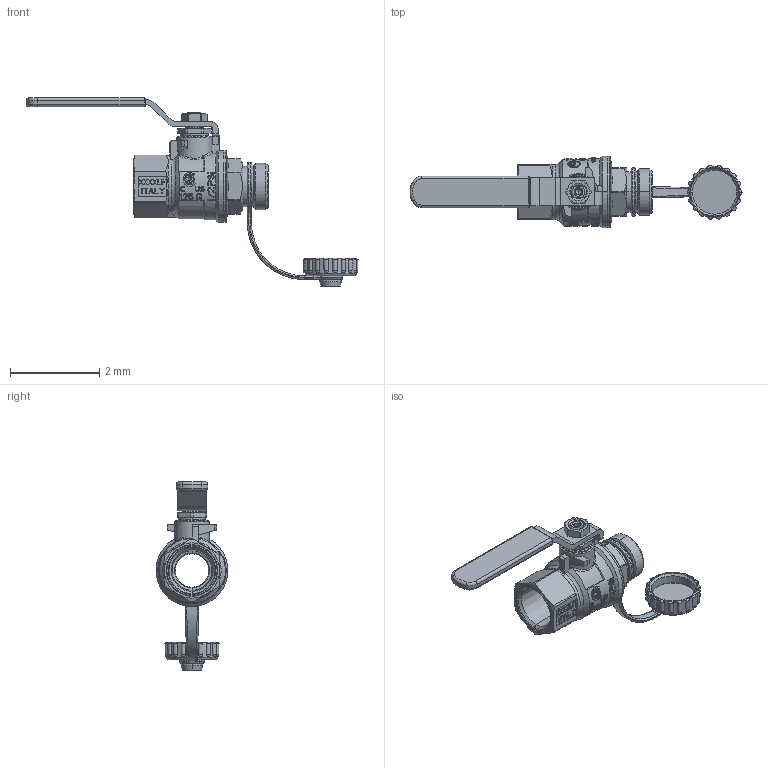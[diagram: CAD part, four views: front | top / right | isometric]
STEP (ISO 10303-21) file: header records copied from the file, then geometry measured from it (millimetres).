
FILE_DESCRIPTION(('Open CASCADE Model'),'2;1');
FILE_NAME('Open CASCADE Shape Model','2022-05-26T11:48:48',('Author'),( 'Open CASCADE'),'Open CASCADE STEP processor 7.3','Open CASCADE 7.3' ,'Unknown');
FILE_SCHEMA(('AUTOMOTIVE_DESIGN { 1 0 10303 214 1 1 1 1 }'));
Length unit declared in the file: millimetre
Products named in the file (24): Open CASCADE STEP translator 7.3 1; Open CASCADE STEP translator 7.3 1.1; Open CASCADE STEP translator 7.3 1.2; Open CASCADE STEP translator 7.3 1.3; Open CASCADE STEP translator 7.3 1.4; Open CASCADE STEP translator 7.3 1.5; Open CASCADE STEP translator 7.3 1.6; Open CASCADE STEP translator 7.3 1.7; Open CASCADE STEP translator 7.3 1.8; Open CASCADE STEP translator 7.3 1.9; Open CASCADE STEP translator 7.3 1.10; Open CASCADE STEP translator 7.3 1.11; Open CASCADE STEP translator 7.3 1.12; Open CASCADE STEP translator 7.3 1.13; Open CASCADE STEP translator 7.3 1.14; Open CASCADE STEP translator 7.3 1.15; Open CASCADE STEP translator 7.3 1.16; Open CASCADE STEP translator 7.3 1.17; Open CASCADE STEP translator 7.3 1.18; Open CASCADE STEP translator 7.3 1.19; Open CASCADE STEP translator 7.3 1.20; Open CASCADE STEP translator 7.3 1.21; Open CASCADE STEP translator 7.3 1.22; Open CASCADE STEP translator 7.3 1.23
Assembly tree (23 placements, depth 2):
  Open CASCADE STEP translator 7.3 1
    Open CASCADE STEP translator 7.3 1.1
    Open CASCADE STEP translator 7.3 1.2
    Open CASCADE STEP translator 7.3 1.3
    Open CASCADE STEP translator 7.3 1.4
    Open CASCADE STEP translator 7.3 1.5
    Open CASCADE STEP translator 7.3 1.6
    Open CASCADE STEP translator 7.3 1.7
    Open CASCADE STEP translator 7.3 1.8
    Open CASCADE STEP translator 7.3 1.9
    Open CASCADE STEP translator 7.3 1.10
    Open CASCADE STEP translator 7.3 1.11
    Open CASCADE STEP translator 7.3 1.12
    Open CASCADE STEP translator 7.3 1.13
    Open CASCADE STEP translator 7.3 1.14
    Open CASCADE STEP translator 7.3 1.15
    Open CASCADE STEP translator 7.3 1.16
    Open CASCADE STEP translator 7.3 1.17
    Open CASCADE STEP translator 7.3 1.18
    Open CASCADE STEP translator 7.3 1.19
    Open CASCADE STEP translator 7.3 1.20
    Open CASCADE STEP translator 7.3 1.21
    Open CASCADE STEP translator 7.3 1.22
    Open CASCADE STEP translator 7.3 1.23
Bounding box: 7.45 x 1.62 x 4.23 mm (x, y, z)
Volume: 3.5 mm3; surface area: 80.1 mm2
Topology: 16 solids, 23 shells, 2180 faces, 5919 edges, 3858 vertices
Faces by surface type: plane 910, bspline 819, cylinder 214, cone 144, torus 57, sphere 20, revolution 16
Entity records: 203400 total; most frequent: CARTESIAN_POINT 99469, DIRECTION 14043, ORIENTED_EDGE 11802, PCURVE 11802, DEFINITIONAL_REPRESENTATION 11802, LINE 9322, VECTOR 9322, B_SPLINE_CURVE_WITH_KNOTS 7154
